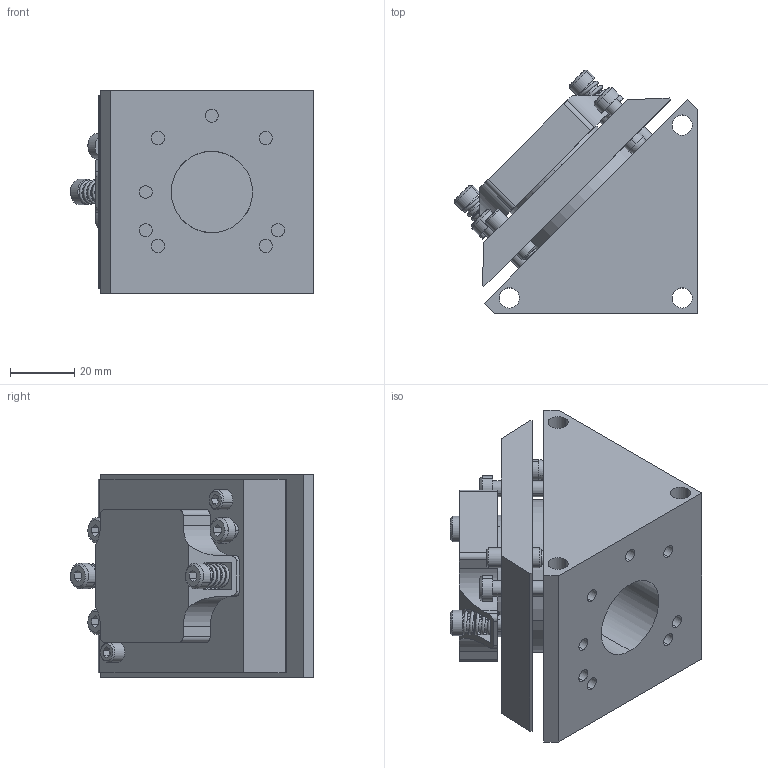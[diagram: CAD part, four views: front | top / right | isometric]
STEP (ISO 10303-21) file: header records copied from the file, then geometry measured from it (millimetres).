
FILE_DESCRIPTION (( 'STEP AP214' ), '1' );
FILE_NAME ('BBK-25-38095-NN.STEP', '2016-11-07T19:53:36', ( '' ), ( '' ), 'SwSTEP 2.0', 'SolidWorks 2016', '' );
FILE_SCHEMA (( 'AUTOMOTIVE_DESIGN' ));
Length unit declared in the file: inch
Products named in the file (1): BBK-25-38095-NN
Bounding box: 75.88 x 75.88 x 63.5 mm (x, y, z)
Surface area: 43694.2 mm2 (no closed solid volume)
Topology: 0 solids, 3 shells, 308 faces, 775 edges, 511 vertices
Faces by surface type: cylinder 150, plane 132, cone 18, sphere 4, bspline 4
Entity records: 25288 total; most frequent: CARTESIAN_POINT 17906, ORIENTED_EDGE 1512, DIRECTION 1507, EDGE_CURVE 767, AXIS2_PLACEMENT_3D 566, VERTEX_POINT 509, EDGE_LOOP 380, LINE 375
